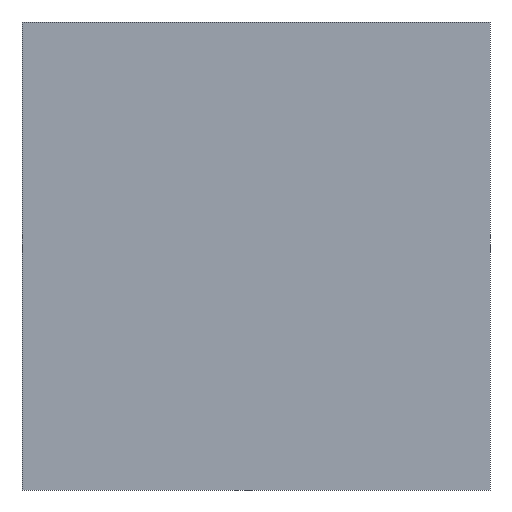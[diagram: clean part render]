
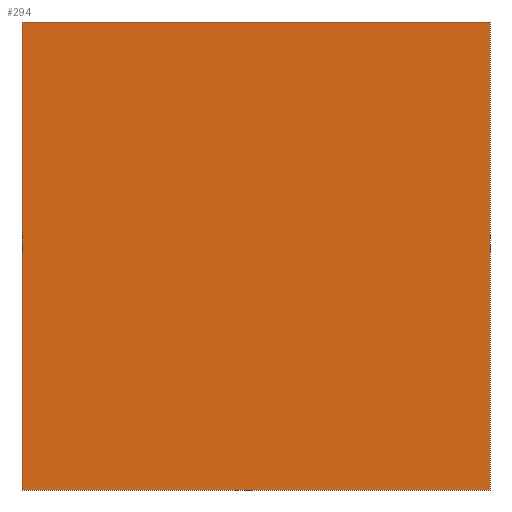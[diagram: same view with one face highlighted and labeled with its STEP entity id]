
A CAD part, front view. The second image highlights one B-rep face of the part: STEP entity #294.
In plain terms, the highlighted planar face has unit normal (0, -1, 0).
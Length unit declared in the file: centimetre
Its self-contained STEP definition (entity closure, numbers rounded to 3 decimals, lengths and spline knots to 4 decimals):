
#23 = LINE ( 'NONE', #354, #281 ) ;
#49 = AXIS2_PLACEMENT_3D ( 'NONE', #470, #174, #213 ) ;
#52 = CARTESIAN_POINT ( 'NONE',  ( 0., 0., 1000. ) ) ;
#55 = VECTOR ( 'NONE', #487, 100. ) ;
#91 = ORIENTED_EDGE ( 'NONE', *, *, #412, .T. ) ;
#132 = EDGE_CURVE ( 'NONE', #484, #154, #239, .T. ) ;
#139 = CARTESIAN_POINT ( 'NONE',  ( 1000., 0., 0. ) ) ;
#152 = ORIENTED_EDGE ( 'NONE', *, *, #132, .T. ) ;
#154 = VERTEX_POINT ( 'NONE', #237 ) ;
#170 = CARTESIAN_POINT ( 'NONE',  ( 1000., 0., 1000. ) ) ;
#174 = DIRECTION ( 'NONE',  ( 0., 1., 0. ) ) ;
#180 = VECTOR ( 'NONE', #452, 100. ) ;
#187 = PLANE ( 'NONE',  #49 ) ;
#191 = EDGE_LOOP ( 'NONE', ( #91, #274, #392, #152 ) ) ;
#204 = LINE ( 'NONE', #335, #180 ) ;
#212 = CARTESIAN_POINT ( 'NONE',  ( 0., 0., 1000. ) ) ;
#213 = DIRECTION ( 'NONE',  ( 0., 0., 1. ) ) ;
#237 = CARTESIAN_POINT ( 'NONE',  ( 0., 0., 0. ) ) ;
#239 = LINE ( 'NONE', #325, #55 ) ;
#274 = ORIENTED_EDGE ( 'NONE', *, *, #295, .F. ) ;
#281 = VECTOR ( 'NONE', #467, 100. ) ;
#294 = ADVANCED_FACE ( 'NONE', ( #385 ), #187, .F. ) ;
#295 = EDGE_CURVE ( 'NONE', #520, #333, #23, .T. ) ;
#325 = CARTESIAN_POINT ( 'NONE',  ( 0., 0., 1000. ) ) ;
#329 = VECTOR ( 'NONE', #453, 100. ) ;
#333 = VERTEX_POINT ( 'NONE', #139 ) ;
#335 = CARTESIAN_POINT ( 'NONE',  ( 0., 0., 0. ) ) ;
#354 = CARTESIAN_POINT ( 'NONE',  ( 1000., 0., 1000. ) ) ;
#373 = LINE ( 'NONE', #52, #329 ) ;
#385 = FACE_OUTER_BOUND ( 'NONE', #191, .T. ) ;
#392 = ORIENTED_EDGE ( 'NONE', *, *, #427, .F. ) ;
#412 = EDGE_CURVE ( 'NONE', #154, #333, #204, .T. ) ;
#427 = EDGE_CURVE ( 'NONE', #484, #520, #373, .T. ) ;
#452 = DIRECTION ( 'NONE',  ( 1., 0., 0. ) ) ;
#453 = DIRECTION ( 'NONE',  ( 1., 0., 0. ) ) ;
#467 = DIRECTION ( 'NONE',  ( 0., 0., -1. ) ) ;
#470 = CARTESIAN_POINT ( 'NONE',  ( 0., 0., 1000. ) ) ;
#484 = VERTEX_POINT ( 'NONE', #212 ) ;
#487 = DIRECTION ( 'NONE',  ( 0., 0., -1. ) ) ;
#520 = VERTEX_POINT ( 'NONE', #170 ) ;
